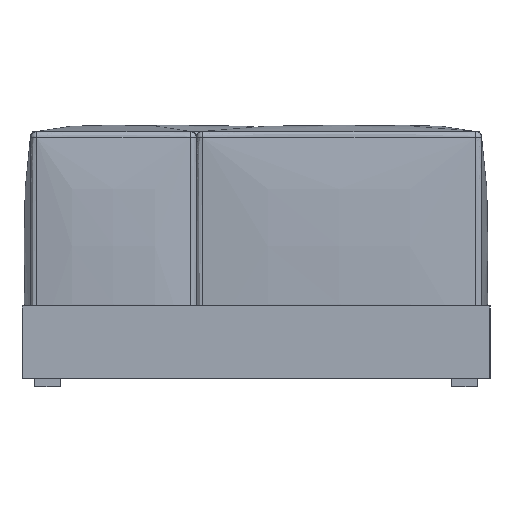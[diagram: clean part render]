
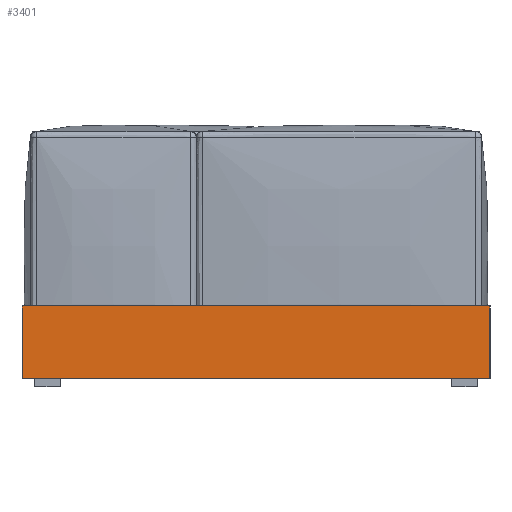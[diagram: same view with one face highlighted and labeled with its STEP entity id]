
A CAD part, left-side view. The second image highlights one B-rep face of the part: STEP entity #3401.
In plain terms, the highlighted planar face has unit normal (-1, 0, 0).
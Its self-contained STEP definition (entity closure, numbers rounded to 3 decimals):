
#59=LINE('',#18369,#251);
#60=LINE('',#18371,#252);
#61=LINE('',#18373,#253);
#62=LINE('',#18374,#254);
#251=VECTOR('',#4341,10.);
#252=VECTOR('',#4342,10.);
#253=VECTOR('',#4343,10.);
#254=VECTOR('',#4344,10.);
#495=PLANE('',#3791);
#993=FACE_OUTER_BOUND('',#1245,.T.);
#1245=EDGE_LOOP('',(#2849,#2850,#2851,#2852));
#1633=VERTEX_POINT('',#18367);
#1634=VERTEX_POINT('',#18368);
#1635=VERTEX_POINT('',#18370);
#1636=VERTEX_POINT('',#18372);
#2057=EDGE_CURVE('',#1633,#1634,#59,.T.);
#2058=EDGE_CURVE('',#1633,#1635,#60,.T.);
#2059=EDGE_CURVE('',#1636,#1635,#61,.T.);
#2060=EDGE_CURVE('',#1634,#1636,#62,.T.);
#2849=ORIENTED_EDGE('',*,*,#2057,.F.);
#2850=ORIENTED_EDGE('',*,*,#2058,.T.);
#2851=ORIENTED_EDGE('',*,*,#2059,.F.);
#2852=ORIENTED_EDGE('',*,*,#2060,.F.);
#3401=ADVANCED_FACE('',(#993),#495,.T.);
#3791=AXIS2_PLACEMENT_3D('',#18366,#4339,#4340);
#4339=DIRECTION('center_axis',(-1.,0.,0.));
#4340=DIRECTION('ref_axis',(0.,-1.,0.));
#4341=DIRECTION('',(0.,1.,0.));
#4342=DIRECTION('',(0.,0.,1.));
#4343=DIRECTION('',(0.,-1.,0.));
#4344=DIRECTION('',(0.,0.,1.));
#18366=CARTESIAN_POINT('Origin',(-1200.,550.,0.));
#18367=CARTESIAN_POINT('',(-1200.,-550.,0.));
#18368=CARTESIAN_POINT('',(-1200.,550.,0.));
#18369=CARTESIAN_POINT('',(-1200.,-550.,0.));
#18370=CARTESIAN_POINT('',(-1200.,-550.,170.));
#18371=CARTESIAN_POINT('',(-1200.,-550.,0.));
#18372=CARTESIAN_POINT('',(-1200.,550.,170.));
#18373=CARTESIAN_POINT('',(-1200.,-550.,170.));
#18374=CARTESIAN_POINT('',(-1200.,550.,0.));
